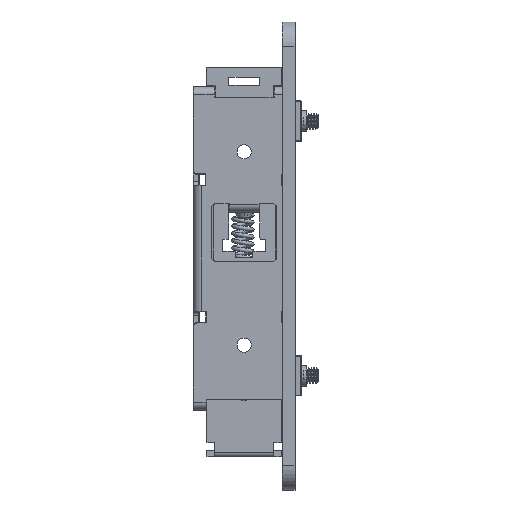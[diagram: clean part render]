
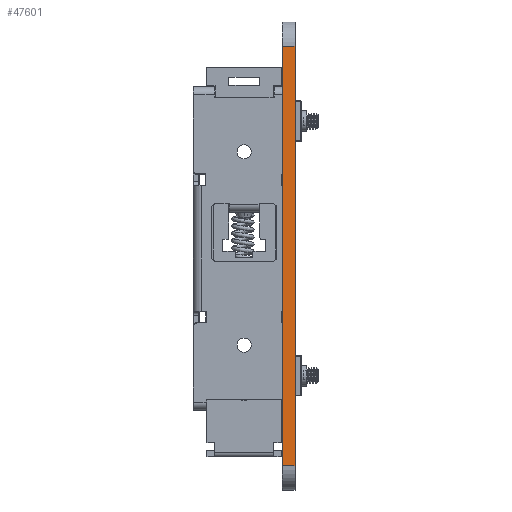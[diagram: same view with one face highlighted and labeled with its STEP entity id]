
A CAD part, left-side view. The second image highlights one B-rep face of the part: STEP entity #47601.
In plain terms, the highlighted planar face has unit normal (-1, 0, 0).
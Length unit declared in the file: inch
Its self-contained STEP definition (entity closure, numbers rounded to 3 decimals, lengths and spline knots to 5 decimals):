
#8654 = DIRECTION ( 'NONE',  ( 0., 0., -1. ) ) ;
#8850 = VECTOR ( 'NONE', #44794, 39.37008 ) ;
#10202 = EDGE_CURVE ( 'NONE', #39723, #55639, #26524, .T. ) ;
#10309 = VECTOR ( 'NONE', #42865, 39.37008 ) ;
#11281 = CARTESIAN_POINT ( 'NONE',  ( -3.33489, 0., 2.02756 ) ) ;
#17610 = ORIENTED_EDGE ( 'NONE', *, *, #52261, .T. ) ;
#19707 = CARTESIAN_POINT ( 'NONE',  ( -3.33489, 0.125, -2.02756 ) ) ;
#22213 = CARTESIAN_POINT ( 'NONE',  ( -3.33489, 0., -2.02756 ) ) ;
#26524 = LINE ( 'NONE', #19707, #64525 ) ;
#26527 = VECTOR ( 'NONE', #28485, 39.37008 ) ;
#27378 = CARTESIAN_POINT ( 'NONE',  ( -3.33489, 0.125, -2.02756 ) ) ;
#28485 = DIRECTION ( 'NONE',  ( 0., -1., 0. ) ) ;
#35197 = ORIENTED_EDGE ( 'NONE', *, *, #48224, .T. ) ;
#37009 = VERTEX_POINT ( 'NONE', #11281 ) ;
#37239 = FACE_OUTER_BOUND ( 'NONE', #58912, .T. ) ;
#39676 = PLANE ( 'NONE',  #58700 ) ;
#39723 = VERTEX_POINT ( 'NONE', #62999 ) ;
#40741 = CARTESIAN_POINT ( 'NONE',  ( -3.33489, 0.125, 2.02756 ) ) ;
#41946 = ORIENTED_EDGE ( 'NONE', *, *, #64634, .F. ) ;
#41955 = LINE ( 'NONE', #27378, #26527 ) ;
#42865 = DIRECTION ( 'NONE',  ( 0., 0., 1. ) ) ;
#44794 = DIRECTION ( 'NONE',  ( 0., -1., 0. ) ) ;
#45041 = CARTESIAN_POINT ( 'NONE',  ( -3.33489, 0., -2.02756 ) ) ;
#45788 = ORIENTED_EDGE ( 'NONE', *, *, #10202, .F. ) ;
#47601 = ADVANCED_FACE ( 'NONE', ( #37239 ), #39676, .F. ) ;
#48224 = EDGE_CURVE ( 'NONE', #62221, #37009, #64528, .T. ) ;
#49387 = CARTESIAN_POINT ( 'NONE',  ( -3.33489, 0.125, -2.02756 ) ) ;
#50275 = DIRECTION ( 'NONE',  ( 1., 0., 0. ) ) ;
#51392 = DIRECTION ( 'NONE',  ( 0., 0., 1. ) ) ;
#52261 = EDGE_CURVE ( 'NONE', #39723, #62221, #41955, .T. ) ;
#55639 = VERTEX_POINT ( 'NONE', #40741 ) ;
#55894 = CARTESIAN_POINT ( 'NONE',  ( -3.33489, 0.125, 2.02756 ) ) ;
#58700 = AXIS2_PLACEMENT_3D ( 'NONE', #49387, #50275, #8654 ) ;
#58912 = EDGE_LOOP ( 'NONE', ( #35197, #41946, #45788, #17610 ) ) ;
#59033 = LINE ( 'NONE', #55894, #8850 ) ;
#62221 = VERTEX_POINT ( 'NONE', #45041 ) ;
#62999 = CARTESIAN_POINT ( 'NONE',  ( -3.33489, 0.125, -2.02756 ) ) ;
#64525 = VECTOR ( 'NONE', #51392, 39.37008 ) ;
#64528 = LINE ( 'NONE', #22213, #10309 ) ;
#64634 = EDGE_CURVE ( 'NONE', #55639, #37009, #59033, .T. ) ;
